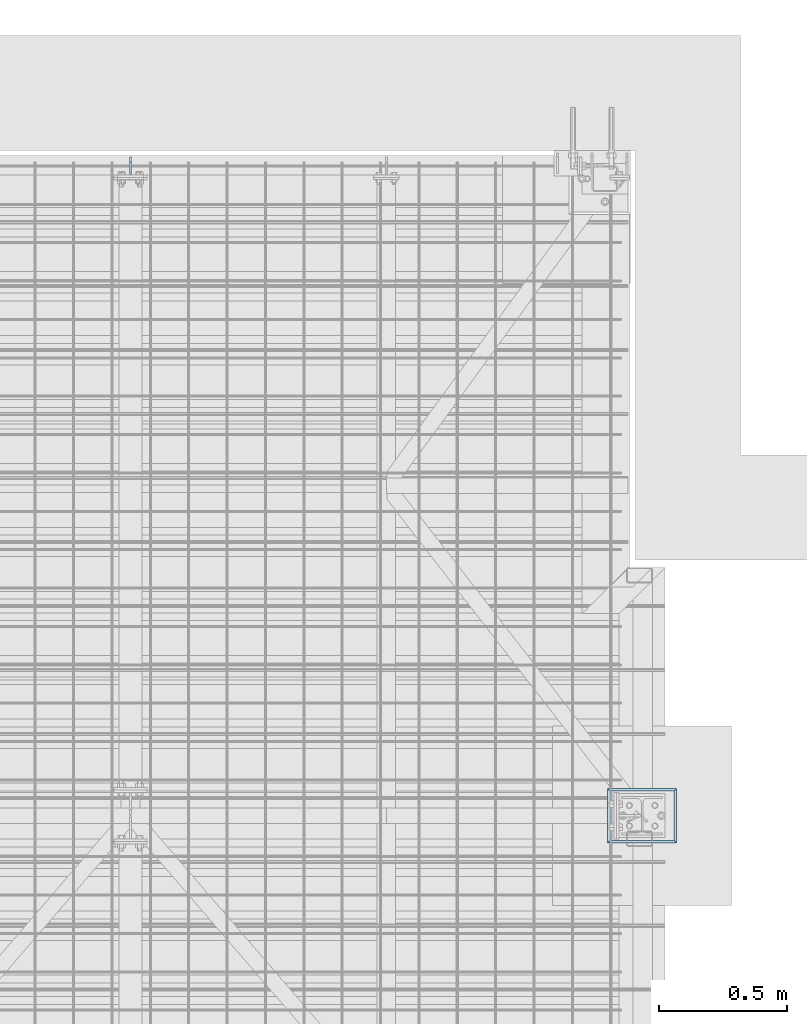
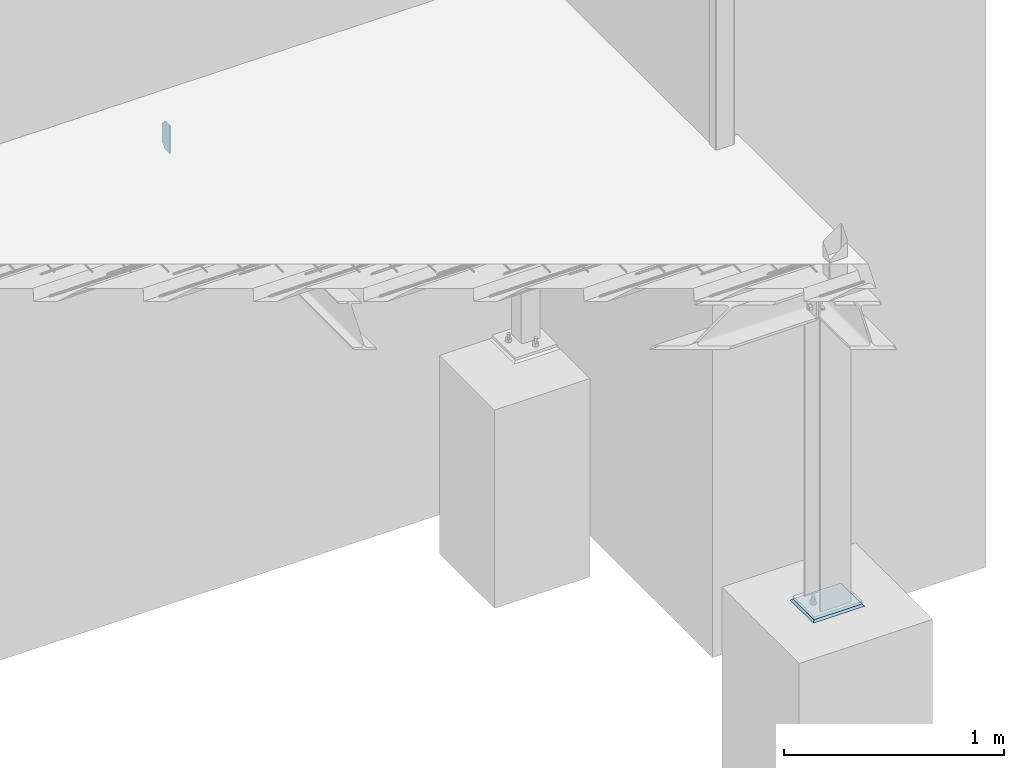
# One storey, part 14 of 27: 2 plates, 2 elements without a shape of their own.
"""IFC2X3 building model written with IfcOpenShell, lengths in millimetres."""

from ifc_helpers import new_model, si_unit, frame, frame_2d, origin_with_axes, place, context, subcontext, project, spatial, polyline, circle_curve, parameter, trimmed, segment, composite_curve, outline, extrude, boolean, material, type_object, element, aggregate, save


model = new_model("IFC2X3")

# Units and contexts
model_context = context("Model", 3, precision=1e-05, world=origin_with_axes())
body_context = subcontext(model_context, "Body", "Model", "MODEL_VIEW")
ifc_project = project(units=[si_unit("LENGTHUNIT", "METRE", prefix="MILLI"), si_unit("AREAUNIT", "SQUARE_METRE"), si_unit("VOLUMEUNIT", "CUBIC_METRE"), si_unit("MASSUNIT", "GRAM", prefix="KILO"), si_unit("TIMEUNIT", "SECOND"), si_unit("PLANEANGLEUNIT", "RADIAN"), si_unit("SOLIDANGLEUNIT", "STERADIAN"), si_unit("THERMODYNAMICTEMPERATUREUNIT", "DEGREE_CELSIUS"), si_unit("LUMINOUSINTENSITYUNIT", "LUMEN")], contexts=[model_context])

# Site, building, storey
site_placement = place(None, origin_with_axes())
site = spatial("IfcSite", under=ifc_project, at=site_placement, Name="Undefined", CompositionType="ELEMENT")
building_placement = place(site_placement, origin_with_axes())
building = spatial("IfcBuilding", under=site, at=building_placement, Name="Undefined", CompositionType="ELEMENT")
storey_placement = place(building_placement, origin_with_axes())
storey = spatial("IfcBuildingStorey", under=building, at=storey_placement, Name="Undefined", CompositionType="ELEMENT", Elevation=0.0)

# Assembly, plate
assembly_1_placement = place(storey_placement, origin_with_axes())
assembly_1 = element("IfcElementAssembly", 1, at=assembly_1_placement, inside=storey, Name="GROUT", AssemblyPlace="NOTDEFINED", PredefinedType="NOTDEFINED")
ifc_material_1 = material(Name="Undefined/GROUT")
plate_type_1 = type_object("IfcPlateType", Name="PL10*212", PredefinedType="NOTDEFINED")
plate_1_placement = place(assembly_1_placement, frame((16185.0, 1154.0, -1995.0), z_axis=(0.0, 0.0, 1.0), x_axis=(0.0, 1.0, 0.0)))
plate_1 = element("IfcPlate", 2, at=plate_1_placement, type_object=plate_type_1, material=ifc_material_1, Name="GROUT", ObjectType="PL10*212", context=body_context, shape_type="CSG", body=[
    boolean("DIFFERENCE", boolean("DIFFERENCE", boolean("DIFFERENCE", boolean("DIFFERENCE", extrude(outline(polyline([(0.0, 0.0), (212.0, 0.0), (212.0, 270.0), (0.0, 270.0), (0.0, 0.0)])), frame((0.0, 0.0, -5.0), z_axis=(0.0, 0.0, 1.0), x_axis=(1.0, 0.0, 0.0)), (0.0, 0.0, 1.0), 10.0), extrude(outline(polyline([(0.0, 0.0), (30.1421356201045, -2.00088834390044e-11), (15.0710678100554, 15.0710678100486), (0.0, 0.0)])), frame((-5.65685424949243, 288.0, -10.6568542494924), z_axis=(0.0, -1.0, 0.0), x_axis=(0.707106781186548, 0.0, 0.707106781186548)), (0.0, 0.0, 1.0), 306.0)), extrude(outline(polyline([(0.0, 0.0), (28.1421356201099, -2.91038304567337e-11), (14.0710678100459, 14.0710678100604), (0.0, 0.0)])), frame((258.0, 274.949747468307, -9.94974746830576), z_axis=(-1.0, 0.0, 0.0), x_axis=(0.0, -0.707106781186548, 0.707106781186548)), (0.0, 0.0, 1.0), 304.0)), extrude(outline(polyline([(0.0, 0.0), (26.1421356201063, -2.1600499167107e-11), (13.0710678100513, 13.0710678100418), (0.0, 0.0)])), frame((216.242640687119, -16.0, -9.24264068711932), z_axis=(0.0, 1.0, 0.0), x_axis=(-0.707106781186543, 0.0, 0.707106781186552)), (0.0, 0.0, 1.0), 302.0)), extrude(outline(polyline([(0.0, 0.0), (24.1421356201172, -1.81898940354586e-11), (12.0710678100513, 12.071067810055), (0.0, 0.0)])), frame((-44.0, -3.53553390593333, -8.53553390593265), z_axis=(1.0, 0.0, 0.0), x_axis=(0.0, 0.707106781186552, 0.707106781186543)), (0.0, 0.0, 1.0), 300.0)),
])
aggregate(assembly_1, [plate_1])

assembly_2_placement = place(storey_placement, origin_with_axes())
assembly_2 = element("IfcElementAssembly", 3, at=assembly_2_placement, inside=storey, AssemblyPlace="NOTDEFINED", PredefinedType="REINFORCEMENT_UNIT")
ifc_material_2 = material(Name="STEEL/S235JR")
plate_type_2 = type_object("IfcPlateType", Name="PL8*70", PredefinedType="NOTDEFINED")
plate_2_placement = place(assembly_2_placement, frame((14050.0, 3765.0, -174.0), z_axis=(-1.0, 0.0, 0.0), x_axis=(0.0, 1.0, 0.0)))
plate_2 = element("IfcPlate", 4, at=plate_2_placement, type_object=plate_type_2, material=ifc_material_2, Name="PLECH", ObjectType="PL8*70", context=body_context, shape_type="SweptSolid", body=[
    extrude(outline(composite_curve([segment(polyline([(0.0, 0.0), (49.5, 0.0)]), True, "CONTINUOUS"), segment(trimmed(circle_curve(frame_2d((69.5, 0.0), x_axis=(-1.0, 0.0)), 20.0), [parameter(0.0)], [parameter(4.71238898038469)], False, "PARAMETER"), True, "CONTINUOUS"), segment(polyline([(69.5, 20.0), (69.5, 132.0)]), True, "CONTINUOUS"), segment(trimmed(circle_curve(frame_2d((69.5, 152.0), x_axis=(0.0, -1.0)), 20.0), [parameter(0.0)], [parameter(4.71238898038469)], False, "PARAMETER"), True, "CONTINUOUS"), segment(polyline([(49.5, 152.0), (0.0, 152.0), (0.0, 0.0)]), True, "DISCONTINUOUS")], self_intersect=False)), frame((0.0, 0.0, -4.0), z_axis=(0.0, 0.0, 1.0), x_axis=(1.0, 0.0, 0.0)), (0.0, 0.0, 1.0), 8.0),
])
aggregate(assembly_2, [plate_2])

save(model, "model.ifc")
